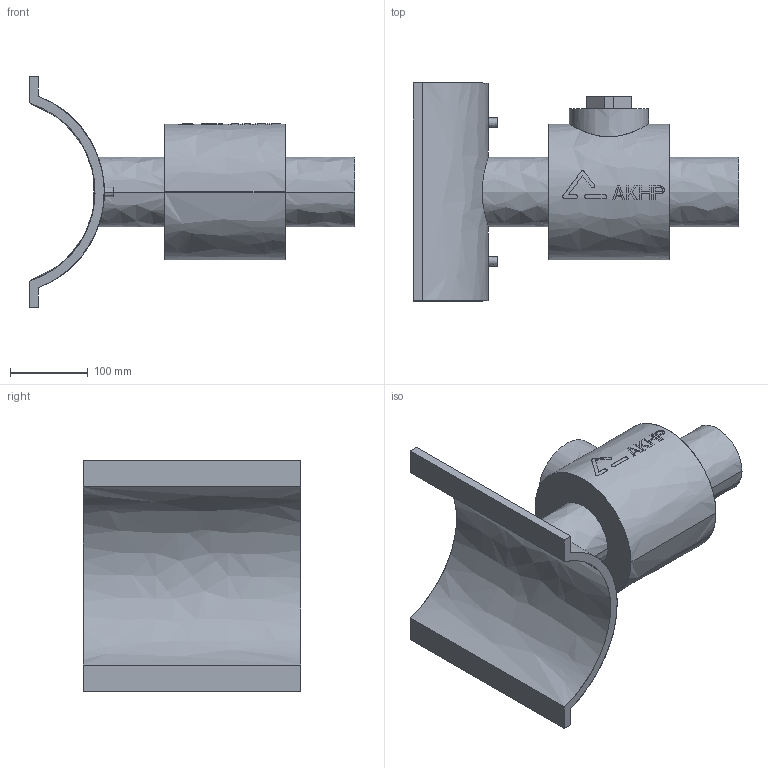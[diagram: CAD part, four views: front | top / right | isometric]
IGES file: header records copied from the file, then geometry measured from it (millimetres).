
Start section:  PTC IGES file: akhp_d225_d90.igs
Global section: file name: akhp_d225_d90.igs; native system: Pro/ENGINEER by Parametric Technology Corporation; preprocessor: 2006140; author: muellerc; organization: Unknown; date: 20060811.103547; units: millimetre
Bounding box: 420 x 281 x 298 mm (x, y, z)
Surface area: 408158.9 mm2 (no closed solid volume)
Topology: 0 solids, 0 shells, 123 faces, 674 edges, 680 vertices
Faces by surface type: bspline 123
